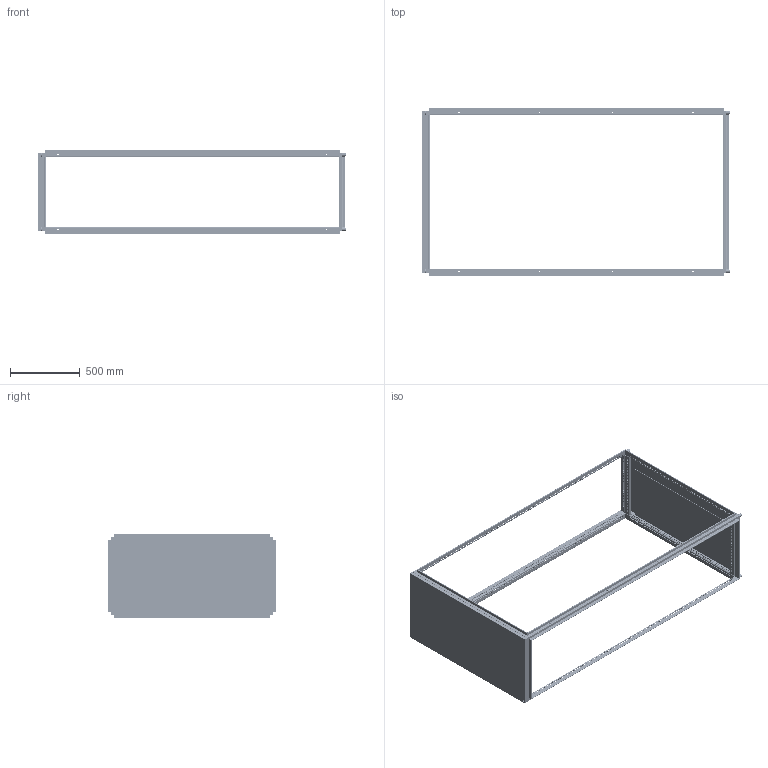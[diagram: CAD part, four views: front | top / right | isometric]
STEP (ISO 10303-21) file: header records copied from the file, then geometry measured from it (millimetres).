
FILE_DESCRIPTION (( 'STEP AP214' ), '1' );
FILE_NAME ('Êàðêàñ2200x1200x600(258902).STEP', '2018-07-05T13:50:09', ( '' ), ( '' ), 'SwSTEP 2.0', 'SolidWorks 2018', '' );
FILE_SCHEMA (( 'AUTOMOTIVE_DESIGN' ));
Length unit declared in the file: millimetre
Products named in the file (12): 瓔鍼賙鍷1200; Êðûøà1200x600; äíî áîêîâèíà600; ﾄ濵1200x600; Ïðîôèëü1200; 忺謤僔1200x600x2200; 忺謤僔2200x1200x600(258902); 赶鎀鍧; 橡铘桦铌钼铋2200; 瓔鍐麃鍧鍷1200; Ïðîôèëü600; ÄíîÊðûøêà1200x600
Assembly tree (28 placements, depth 3):
  忺謤僔2200x1200x600(258902)
    忺謤僔1200x600x2200
      橡铘桦铌钼铋2200  x4
      赶鎀鍧  x8
      Ïðîôèëü1200  x4
      Ïðîôèëü600  x4
    ﾄ濵1200x600
      äíî áîêîâèíà600  x2
      瓔鍼賙鍷1200
      瓔鍐麃鍧鍷1200
      ÄíîÊðûøêà1200x600
    Êðûøà1200x600
Bounding box: 2200.5 x 1200 x 600 mm (x, y, z)
Volume: 6412846.5 mm3; surface area: 8831522 mm2
Topology: 26 solids, 26 shells, 10142 faces, 28760 edges, 18702 vertices
Faces by surface type: plane 6780, cylinder 3330, sphere 24, bspline 8
Entity records: 86959 total; most frequent: CARTESIAN_POINT 15140, ORIENTED_EDGE 14658, DIRECTION 14255, EDGE_CURVE 7329, VECTOR 5623, LINE 5623, VERTEX_POINT 4753, AXIS2_PLACEMENT_3D 4316
